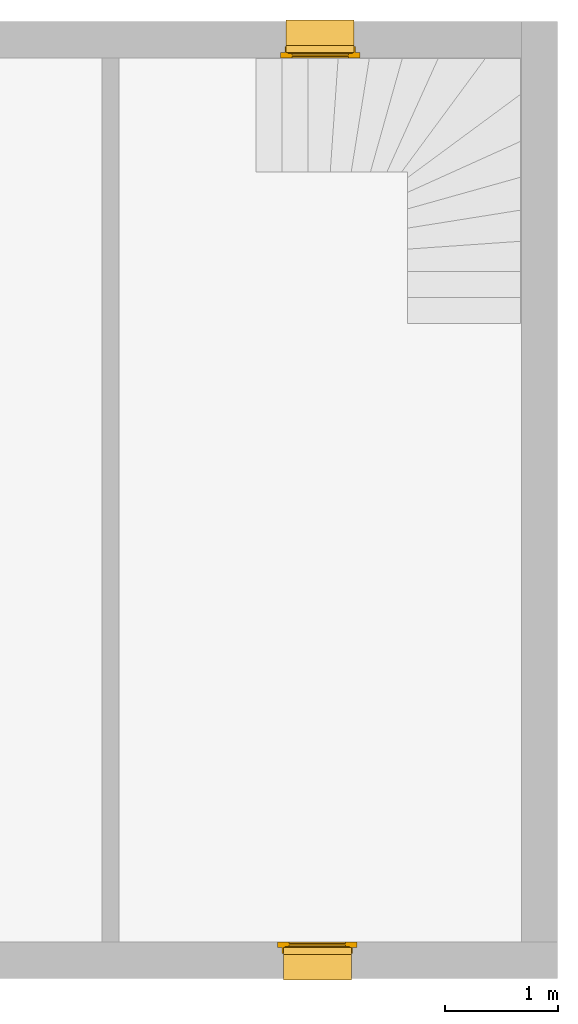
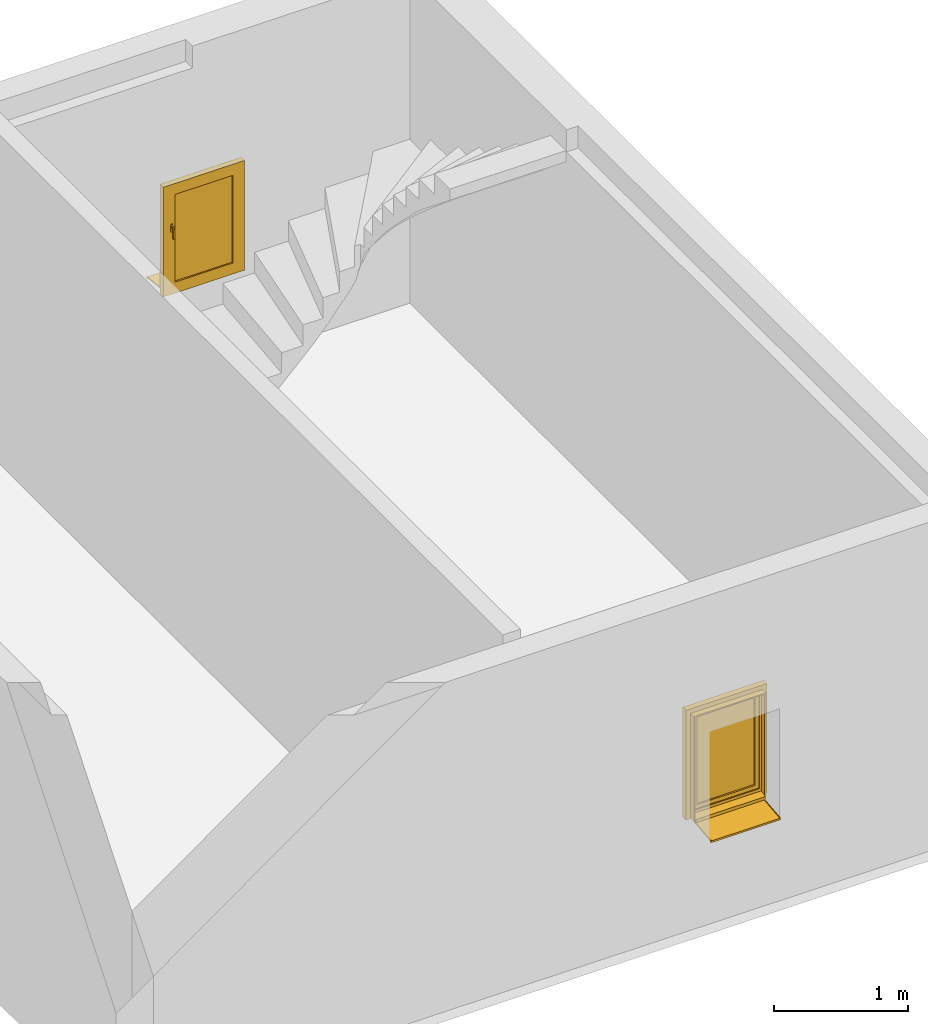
# One storey, part 3 of 4: 2 windows.
"""IFC2X3 building model written with IfcOpenShell, lengths in metres."""

import ifcopenshell
import ifcopenshell.guid

model = None  # the IFC model being written
_history = None  # IfcOwnerHistory: only IFC2X3 demands one
_inside = {}  # id of a spatial element -> (the spatial element, [elements in it])
_under = {}  # id of a project, library or spatial element -> (it, [spatial elements below it])
_declared = {}  # id of a project -> (the project, [libraries it declares])
_typed = {}  # id of a type object -> (the type object, [elements of that type])
_made_of = {}  # id of a material, layer set ... -> (it, [elements and type objects made of it])


def new_model(schema):
    """Start an empty IFC model of exactly this schema.

    Asked for "IFC4X3", IfcOpenShell would pick the latest addendum, in which some entities
    have other attributes; the version numbers below select the first issue.
    IFC2X3 requires an IfcOwnerHistory on every rooted entity: one is made here for all.
    """
    global model, _history
    if schema == "IFC4X3":
        model = ifcopenshell.file(schema_version=(4, 3, 0, 0))
    else:
        model = ifcopenshell.file(schema=schema)
    _inside.clear()
    _under.clear()
    _declared.clear()
    _typed.clear()
    _made_of.clear()
    _history = None
    if model.schema == "IFC2X3":
        org = make("IfcOrganization", Name="unknown")
        user = make(
            "IfcPersonAndOrganization",
            ThePerson=make("IfcPerson", FamilyName="unknown"),
            TheOrganization=org,
        )
        app = make(
            "IfcApplication",
            ApplicationDeveloper=org,
            Version="unknown",
            ApplicationFullName="unknown",
            ApplicationIdentifier="unknown",
        )
        _history = make(
            "IfcOwnerHistory",
            OwningUser=user,
            OwningApplication=app,
            ChangeAction="ADDED",
            CreationDate=0,
        )
    return model


def make(cls, **values):
    """One entity of the class cls with the attributes given. An attribute that is None is left unset."""
    return model.create_entity(
        cls, **{name: value for name, value in values.items() if value is not None}
    )


def entity(cls, *values):
    """Any entity or typed value of the class cls, its attributes in the order of the schema. None: left unset."""
    e = model.create_entity(cls)
    for i, value in enumerate(values):
        if value is not None:
            e[i] = value
    return e


def rooted(cls, **values):
    """An entity with a GlobalId (a new one), such as an element, a storey or a relation."""
    return make(cls, GlobalId=ifcopenshell.guid.new(), OwnerHistory=_history, **values)


def si_unit(unit_type, name, prefix=None):
    """IfcSIUnit, for example si_unit("LENGTHUNIT", "METRE", prefix="MILLI")."""
    return make("IfcSIUnit", UnitType=unit_type, Prefix=prefix, Name=name)


def converted_unit(unit_type, name, factor, base, dimensions=None, offset=None):
    """IfcConversionBasedUnit, such as the inch: factor (a typed value) times the base unit."""
    return make(
        "IfcConversionBasedUnit"
        if offset is None
        else "IfcConversionBasedUnitWithOffset",
        ConversionOffset=offset,
        Dimensions=None
        if dimensions is None
        else entity("IfcDimensionalExponents", *dimensions),
        UnitType=unit_type,
        Name=name,
        ConversionFactor=make(
            "IfcMeasureWithUnit", ValueComponent=factor, UnitComponent=base
        ),
    )


def derived_unit(unit_type, elements):
    """IfcDerivedUnit: a product of units, each with its exponent."""
    return make(
        "IfcDerivedUnit",
        Elements=[
            make("IfcDerivedUnitElement", Unit=unit, Exponent=power)
            for unit, power in elements
        ],
        UnitType=unit_type,
    )


def assignment(units):
    """IfcUnitAssignment: the units of a project."""
    return None if units is None else make("IfcUnitAssignment", Units=units)


def point(xyz):
    """IfcCartesianPoint."""
    return None if xyz is None else make("IfcCartesianPoint", Coordinates=xyz)


def direction(xyz):
    """IfcDirection."""
    return None if xyz is None else make("IfcDirection", DirectionRatios=xyz)


def frame(location, z_axis=None, x_axis=None):
    """IfcAxis2Placement3D, a coordinate frame: its origin and axes. An axis left out is left unset."""
    return make(
        "IfcAxis2Placement3D",
        Location=point(location),
        Axis=direction(z_axis),
        RefDirection=direction(x_axis),
    )


def origin():
    """The frame at (0, 0, 0) with its axes left unset."""
    return frame((0.0, 0.0, 0.0))


def place(relative_to, where):
    """IfcLocalPlacement: puts the frame where relative to a parent placement (None: the world)."""
    return make(
        "IfcLocalPlacement", PlacementRelTo=relative_to, RelativePlacement=where
    )


def context(
    kind, dimensions, precision=None, world=None, true_north=None, identifier=None
):
    """IfcGeometricRepresentationContext, for example the 3D "Model" context."""
    return make(
        "IfcGeometricRepresentationContext",
        ContextIdentifier=identifier,
        ContextType=kind,
        CoordinateSpaceDimension=dimensions,
        Precision=precision,
        WorldCoordinateSystem=world,
        TrueNorth=true_north,
    )


def subcontext(parent, identifier, kind, view, scale=None):
    """IfcGeometricRepresentationSubContext, for example "Body" below "Model"."""
    return make(
        "IfcGeometricRepresentationSubContext",
        ContextIdentifier=identifier,
        ContextType=kind,
        ParentContext=parent,
        TargetScale=scale,
        TargetView=view,
    )


def project(units=None, contexts=None):
    """IfcProject with its units and contexts."""
    return rooted(
        "IfcProject",
        Name="project",
        RepresentationContexts=contexts,
        UnitsInContext=assignment(units),
    )


def spatial(cls, under=None, at=None, **own):
    """A site, building, storey or space (cls), placed at a placement, below another one or the project."""
    s = rooted(cls, ObjectPlacement=at, **own)
    if under is not None:
        _under.setdefault(under.id(), (under, []))[1].append(s)
    return s


def faces_of(points, faces, orient=None, outer=None):
    """IfcFace entities. A face is a list of loops; a loop is a list of indices into points, from 0.

    orient and outer hold one flag for each loop. By default every Orientation is true, the
    first loop of a face is its IfcFaceOuterBound and the others are IfcFaceBound.
    """
    made = []
    for i, loops in enumerate(faces):
        bounds = []
        for j, loop in enumerate(loops):
            is_outer = j == 0 if outer is None else outer[i][j]
            bounds.append(
                make(
                    "IfcFaceOuterBound" if is_outer else "IfcFaceBound",
                    Bound=make("IfcPolyLoop", Polygon=[points[k] for k in loop]),
                    Orientation=True if orient is None else orient[i][j],
                )
            )
        made.append(make("IfcFace", Bounds=bounds))
    return made


def faceted_brep(points, faces, orient=None, outer=None, voids=None):
    """IfcFacetedBrep: a solid bounded by flat faces; with voids (closed shells), ...WithVoids."""
    shared = [point(p) for p in points]
    hull = make("IfcClosedShell", CfsFaces=faces_of(shared, faces, orient, outer))
    if voids is None:
        return make("IfcFacetedBrep", Outer=hull)
    return make(
        "IfcFacetedBrepWithVoids",
        Outer=hull,
        Voids=[
            make(cls, CfsFaces=faces_of(shared, fs, o, b)) for cls, fs, o, b in voids
        ],
    )


def shape(context_of_items, identifier, shape_type, items):
    """IfcShapeRepresentation: the items that make up one representation, for example the "Body"."""
    return make(
        "IfcShapeRepresentation",
        ContextOfItems=context_of_items,
        RepresentationIdentifier=identifier,
        RepresentationType=shape_type,
        Items=items,
    )


def source(mapping_origin, context_of_items, identifier, shape_type, items):
    """IfcRepresentationMap: a shape defined once, which mapped items show again and again."""
    return make(
        "IfcRepresentationMap",
        MappingOrigin=mapping_origin,
        MappedRepresentation=shape(context_of_items, identifier, shape_type, items),
    )


def transform(
    local_origin,
    x_axis=None,
    y_axis=None,
    z_axis=None,
    scale=None,
    scale2=None,
    scale3=None,
    uniform=True,
):
    """IfcCartesianTransformationOperator3D, or its non-uniform kind. x_axis, y_axis, z_axis: its Axis1, 2, 3."""
    if uniform:
        return make(
            "IfcCartesianTransformationOperator3D",
            Axis1=direction(x_axis),
            Axis2=direction(y_axis),
            LocalOrigin=point(local_origin),
            Scale=scale,
            Axis3=direction(z_axis),
        )
    return make(
        "IfcCartesianTransformationOperator3DnonUniform",
        Axis1=direction(x_axis),
        Axis2=direction(y_axis),
        LocalOrigin=point(local_origin),
        Scale=scale,
        Axis3=direction(z_axis),
        Scale2=scale2,
        Scale3=scale3,
    )


def mapped(mapping_source, mapping_target):
    """IfcMappedItem: shows the shape of a source again, moved by a transform."""
    return make(
        "IfcMappedItem", MappingSource=mapping_source, MappingTarget=mapping_target
    )


def material(Name=None, Category=None):
    """IfcMaterial."""
    return make("IfcMaterial", Name=Name, Category=Category)


def material_list(materials):
    """IfcMaterialList."""
    return make("IfcMaterialList", Materials=materials)


def made_of(thing, what):
    """Note that an element or type object is made of a material, layer set ...; save() writes the relation."""
    if what is not None:
        _made_of.setdefault(what.id(), (what, []))[1].append(thing)
    return thing


def type_object(cls, material=None, **own):
    """A type object (cls), such as IfcWallType, which elements share."""
    return made_of(rooted(cls, **own), material)


def type_shapes(of_type, sources):
    """Give a type object the sources (RepresentationMaps) that its elements show as mapped items."""
    of_type.RepresentationMaps = sources


def element(
    cls,
    number,
    at=None,
    inside=None,
    cuts=None,
    type_object=None,
    material=None,
    context=None,
    identifier="Body",
    shape_type=None,
    held_by="IfcProductDefinitionShape",
    body=None,
    shapes=None,
    **own,
):
    """One element of the class cls, such as IfcWall. Its Tag is "e" and its number.

    at: its placement. inside: the storey or other place that contains it. cuts: it is an
    opening in that element (IfcRelVoidsElement). A single representation is given by context,
    identifier, shape_type and body (its items); several are given by shapes. held_by: the class
    of the entity that holds the representations. save() writes the other relations.
    """
    e = rooted(cls, Tag="e%d" % number, ObjectPlacement=at, **own)
    if body is not None:
        shapes = [shape(context, identifier, shape_type, body)]
    if shapes is not None:
        e.Representation = make(held_by, Representations=shapes)
    if inside is not None:
        _inside.setdefault(inside.id(), (inside, []))[1].append(e)
    if cuts is not None:
        rooted(
            "IfcRelVoidsElement", RelatingBuildingElement=cuts, RelatedOpeningElement=e
        )
    if type_object is not None:
        _typed.setdefault(type_object.id(), (type_object, []))[1].append(e)
    return made_of(e, material)


def aggregate(whole, parts):
    """IfcRelAggregates: a whole, such as a stair, and the parts it consists of."""
    return rooted("IfcRelAggregates", RelatingObject=whole, RelatedObjects=parts)


def save(model, path):
    """Write the relations noted so far, then the file.

    IfcRelAggregates (storeys below a building ...), IfcRelContainedInSpatialStructure (elements
    in a storey), IfcRelDefinesByType, IfcRelAssociatesMaterial and IfcRelDeclares: one each for
    every whole, place, type object, material and project.
    """
    for whole, parts in _under.values():
        aggregate(whole, parts)
    for where, things in _inside.values():
        rooted(
            "IfcRelContainedInSpatialStructure",
            RelatedElements=things,
            RelatingStructure=where,
        )
    for kind, things in _typed.values():
        rooted("IfcRelDefinesByType", RelatedObjects=things, RelatingType=kind)
    for what, things in _made_of.values():
        rooted("IfcRelAssociatesMaterial", RelatedObjects=things, RelatingMaterial=what)
    for by, libraries in _declared.values():
        rooted("IfcRelDeclares", RelatingContext=by, RelatedDefinitions=libraries)
    model.write(path)


model = new_model("IFC2X3")

# Units and contexts
model_context = context("Model", 3, precision=1e-05, world=origin(), true_north=direction((6.12303176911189e-17, 1.0)))
context_of_model = context(None, 3, precision=1e-05, world=origin(), true_north=direction((6.12303176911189e-17, 1.0)))
body_context = subcontext(model_context, "Body", "Model", "MODEL_VIEW")
ifc_project = project(units=[si_unit("LENGTHUNIT", "METRE"), si_unit("AREAUNIT", "SQUARE_METRE"), si_unit("VOLUMEUNIT", "CUBIC_METRE"), converted_unit("PLANEANGLEUNIT", "DEGREE", entity("IfcRatioMeasure", 0.0174532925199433), si_unit("PLANEANGLEUNIT", "RADIAN"), dimensions=[0, 0, 0, 0, 0, 0, 0]), si_unit("MASSUNIT", "GRAM", prefix="KILO"), si_unit("TIMEUNIT", "SECOND"), si_unit("FREQUENCYUNIT", "HERTZ"), si_unit("THERMODYNAMICTEMPERATUREUNIT", "DEGREE_CELSIUS"), derived_unit("THERMALTRANSMITTANCEUNIT", [(si_unit("MASSUNIT", "GRAM", prefix="KILO"), 1), (si_unit("THERMODYNAMICTEMPERATUREUNIT", "KELVIN"), -1), (si_unit("TIMEUNIT", "SECOND"), -3)]), derived_unit("VOLUMETRICFLOWRATEUNIT", [(si_unit("LENGTHUNIT", "METRE"), 3), (si_unit("TIMEUNIT", "SECOND"), -1)]), si_unit("ELECTRICCURRENTUNIT", "AMPERE"), si_unit("ELECTRICVOLTAGEUNIT", "VOLT"), si_unit("POWERUNIT", "WATT"), si_unit("FORCEUNIT", "NEWTON", prefix="KILO"), si_unit("ILLUMINANCEUNIT", "LUX"), si_unit("LUMINOUSFLUXUNIT", "LUMEN"), si_unit("LUMINOUSINTENSITYUNIT", "CANDELA"), si_unit("PRESSUREUNIT", "PASCAL")], contexts=[model_context, context_of_model])

# Site, building, storey
site_placement = place(None, origin())
site = spatial("IfcSite", under=ifc_project, at=site_placement, Name="Default", CompositionType="ELEMENT")
building_placement = place(site_placement, origin())
building = spatial("IfcBuilding", under=site, at=building_placement, CompositionType="ELEMENT")
storey_placement = place(building_placement, origin())
storey = spatial("IfcBuildingStorey", under=building, at=storey_placement, Name="Niveau 0", CompositionType="ELEMENT", Elevation=-1.94916083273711e-14)

# Windows
ifc_material_1 = material(Name="Fenêtre - Poignée")
ifc_material_2 = material(Name="Fenêtre - Appui")
ifc_material_3 = material(Name="Fenêtre - Vitrage")
ifc_material_4 = material(Name="Fenêtre - Cadre")
ifc_material_list_1 = material_list([ifc_material_1, ifc_material_2, ifc_material_3, ifc_material_4])
ifc_material_list_2 = material_list([ifc_material_1, ifc_material_2, ifc_material_3, ifc_material_4])
window_style = type_object("IfcWindowStyle", Name="0.60 m x 0.95 m - Appui en aluminium", ConstructionType="NOTDEFINED", OperationType="SINGLE_PANEL", ParameterTakesPrecedence=False, Sizeable=False, material=ifc_material_list_2)
shared_shape = source(origin(), body_context, "Body", "Brep", [
    faceted_brep([(0.0806460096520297, -0.66600000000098, 0.697994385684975), (0.08203392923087, -0.66600000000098, 0.696606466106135), (0.08203392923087, -0.66600000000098, 0.68529275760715), (0.0806676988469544, -0.66600000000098, 0.683926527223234), (0.0693323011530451, -0.66600000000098, 0.683926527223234), (0.0679660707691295, -0.66600000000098, 0.68529275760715), (0.0679660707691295, -0.66600000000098, 0.696606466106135), (0.0693539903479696, -0.66600000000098, 0.697994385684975), (0.0806460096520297, -0.678913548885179, 0.697994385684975), (0.08203392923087, -0.67833865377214, 0.696606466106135), (0.08203392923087, -0.69164600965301, 0.683299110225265), (0.08203392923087, -0.691646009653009, 0.595960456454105), (0.08203392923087, -0.680332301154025, 0.595960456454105), (0.08203392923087, -0.680332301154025, 0.67861281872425), (0.08203392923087, -0.673652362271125, 0.68529275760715), (0.0806676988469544, -0.673086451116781, 0.683926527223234), (0.0693323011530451, -0.673086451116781, 0.683926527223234), (0.0679660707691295, -0.673652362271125, 0.68529275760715), (0.0679660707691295, -0.680332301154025, 0.67861281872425), (0.0679660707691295, -0.680332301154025, 0.595960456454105), (0.0679660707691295, -0.691646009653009, 0.595960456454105), (0.0679660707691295, -0.69164600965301, 0.683299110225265), (0.0679660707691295, -0.67833865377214, 0.696606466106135), (0.0693539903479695, -0.678913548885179, 0.697994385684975), (0.0806460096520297, -0.69303392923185, 0.683874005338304), (0.0806676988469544, -0.678966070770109, 0.678046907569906), (0.0693323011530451, -0.678966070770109, 0.678046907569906), (0.0693539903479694, -0.69303392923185, 0.683874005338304), (0.0806460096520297, -0.69303392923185, 0.595960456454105), (0.0693539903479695, -0.69303392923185, 0.595960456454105), (0.0693323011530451, -0.678966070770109, 0.595960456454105), (0.0806676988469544, -0.678966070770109, 0.595960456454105)], [[[0, 1, 2, 3, 4, 5, 6, 7]], [[1, 0, 8, 9]], [[2, 1, 9, 10, 11, 12, 13, 14]], [[3, 2, 14, 15]], [[4, 3, 15, 16]], [[5, 4, 16, 17]], [[6, 5, 17, 18, 19, 20, 21, 22]], [[7, 6, 22, 23]], [[0, 7, 23, 8]], [[9, 8, 24, 10]], [[15, 14, 13, 25]], [[16, 15, 25, 26]], [[17, 16, 26, 18]], [[23, 22, 21, 27]], [[8, 23, 27, 24]], [[28, 29, 20, 19, 30, 31, 12, 11]], [[10, 24, 28, 11]], [[25, 13, 12, 31]], [[26, 25, 31, 30]], [[18, 26, 30, 19]], [[27, 21, 20, 29]], [[24, 27, 29, 28]]]),
    faceted_brep([(0.0820000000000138, -0.666000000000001, 0.715960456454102), (0.0679999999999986, -0.666000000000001, 0.715960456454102), (0.0629999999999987, -0.666000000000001, 0.710960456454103), (0.0629999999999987, -0.666000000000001, 0.640960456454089), (0.0679999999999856, -0.666000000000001, 0.635960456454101), (0.0820000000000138, -0.666000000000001, 0.635960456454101), (0.0869999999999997, -0.666000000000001, 0.640960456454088), (0.0869999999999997, -0.666000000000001, 0.710960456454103), (0.0820000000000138, -0.660000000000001, 0.715960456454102), (0.0869999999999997, -0.660000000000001, 0.710960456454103), (0.0869999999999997, -0.660000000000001, 0.640960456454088), (0.0820000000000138, -0.660000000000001, 0.635960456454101), (0.0679999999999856, -0.660000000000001, 0.635960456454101), (0.0629999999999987, -0.660000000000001, 0.640960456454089), (0.0629999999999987, -0.660000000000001, 0.710960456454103), (0.0679999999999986, -0.660000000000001, 0.715960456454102)], [[[0, 1, 2, 3, 4, 5, 6, 7]], [[8, 9, 10, 11, 12, 13, 14, 15]], [[1, 0, 8, 15]], [[2, 1, 15, 14]], [[3, 2, 14, 13]], [[4, 3, 13, 12]], [[5, 4, 12, 11]], [[6, 5, 11, 10]], [[7, 6, 10, 9]], [[0, 7, 9, 8]]]),
    faceted_brep([(0.649999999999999, -0.324999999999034, 0.0394140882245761), (0.649999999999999, -0.574999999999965, 0.0656901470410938), (0.649999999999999, -0.574999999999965, 0.0759604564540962), (0.649999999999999, -0.579999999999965, 0.0759604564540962), (0.649999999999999, -0.579999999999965, 0.0609604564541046), (0.649999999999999, -0.329999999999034, 0.0346843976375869), (0.649999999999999, -0.329999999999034, 0.0243838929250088), (0.649999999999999, -0.324999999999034, 0.0238583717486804), (0.0499999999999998, -0.324999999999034, 0.0394140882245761), (0.0499999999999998, -0.324999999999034, 0.0238583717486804), (0.0499999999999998, -0.329999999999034, 0.0243838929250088), (0.0499999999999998, -0.329999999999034, 0.0346843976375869), (0.0499999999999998, -0.579999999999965, 0.0609604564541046), (0.0499999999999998, -0.579999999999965, 0.0759604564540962), (0.0499999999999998, -0.574999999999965, 0.0759604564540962), (0.0499999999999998, -0.574999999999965, 0.0656901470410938)], [[[0, 1, 2, 3, 4, 5, 6, 7]], [[8, 9, 10, 11, 12, 13, 14, 15]], [[1, 0, 8, 15]], [[2, 1, 15, 14]], [[3, 2, 14, 13]], [[4, 3, 13, 12]], [[5, 4, 12, 11]], [[6, 5, 11, 10]], [[7, 6, 10, 9]], [[0, 7, 9, 8]]]),
    faceted_brep([(0.05, -0.324999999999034, 0.0408400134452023), (0.05, -0.324999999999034, 0.0394140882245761), (0.0499999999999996, -0.574999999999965, 0.0656901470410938), (0.0499999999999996, -0.574999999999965, 0.0707176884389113), (0.05, -0.328581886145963, 0.0448181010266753), (0.05, -0.326027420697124, 0.0435165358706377), (0.0549999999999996, -0.574999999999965, 0.0707176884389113), (0.0549999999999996, -0.574999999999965, 0.0656901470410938), (0.055, -0.324999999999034, 0.0394140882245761), (0.055, -0.324999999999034, 0.0408400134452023), (0.055, -0.326027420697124, 0.0435165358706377), (0.055, -0.328581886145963, 0.0448181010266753)], [[[0, 1, 2, 3, 4, 5]], [[6, 7, 8, 9, 10, 11]], [[2, 1, 8, 7]], [[3, 2, 7, 6]], [[4, 3, 6, 11]], [[4, 11, 10, 5]], [[10, 9, 0, 5]], [[1, 0, 9, 8]]]),
    faceted_brep([(0.645, -0.324999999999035, 0.0408400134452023), (0.645, -0.324999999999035, 0.0394140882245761), (0.644999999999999, -0.574999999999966, 0.0656901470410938), (0.644999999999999, -0.574999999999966, 0.0707176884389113), (0.645, -0.328581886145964, 0.0448181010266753), (0.645, -0.326027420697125, 0.0435165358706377), (0.649999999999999, -0.574999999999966, 0.0707176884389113), (0.649999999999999, -0.574999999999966, 0.0656901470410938), (0.65, -0.324999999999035, 0.0394140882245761), (0.65, -0.324999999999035, 0.0408400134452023), (0.65, -0.326027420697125, 0.0435165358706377), (0.65, -0.328581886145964, 0.0448181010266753)], [[[0, 1, 2, 3, 4, 5]], [[6, 7, 8, 9, 10, 11]], [[2, 1, 8, 7]], [[3, 2, 7, 6]], [[4, 3, 6, 11]], [[4, 11, 10, 5]], [[10, 9, 0, 5]], [[1, 0, 9, 8]]]),
    faceted_brep([(0.0999999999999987, -0.634000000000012, 0.175960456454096), (0.0999999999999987, -0.634000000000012, 0.975960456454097), (0.6, -0.634000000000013, 0.975960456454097), (0.6, -0.634000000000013, 0.175960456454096), (0.0999999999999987, -0.646000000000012, 0.175960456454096), (0.0999999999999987, -0.646000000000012, 0.975960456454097), (0.6, -0.646000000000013, 0.975960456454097), (0.6, -0.646000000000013, 0.175960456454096)], [[[0, 1, 2, 3]], [[1, 0, 4, 5]], [[3, 2, 6, 7]], [[0, 3, 7, 4]], [[4, 7, 6, 5]], [[2, 1, 5, 6]]]),
    faceted_brep([(0.099999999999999, -0.620000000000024, 0.975960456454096), (0.0999999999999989, -0.660000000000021, 0.975960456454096), (0.0999999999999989, -0.660000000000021, 0.175960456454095), (0.0999999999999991, -0.620000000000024, 0.175960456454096), (0.6, -0.660000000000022, 0.175960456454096), (0.6, -0.620000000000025, 0.175960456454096), (0.6, -0.660000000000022, 0.975960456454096), (0.649999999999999, -0.660000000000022, 0.125960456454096), (0.649999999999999, -0.660000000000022, 1.0259604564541), (0.0499999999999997, -0.660000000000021, 1.0259604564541), (0.0499999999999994, -0.660000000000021, 0.125960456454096), (0.6, -0.620000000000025, 0.975960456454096), (0.0499999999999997, -0.620000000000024, 0.125960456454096), (0.0499999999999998, -0.620000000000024, 1.0259604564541), (0.649999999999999, -0.620000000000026, 1.0259604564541), (0.649999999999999, -0.620000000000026, 0.125960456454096)], [[[0, 1, 2, 3]], [[3, 2, 4, 5]], [[2, 1, 6, 4], [7, 8, 9, 10]], [[5, 4, 6, 11]], [[5, 11, 0, 3], [12, 13, 14, 15]], [[9, 13, 12, 10]], [[10, 12, 15, 7]], [[7, 15, 14, 8]], [[11, 6, 1, 0]], [[8, 14, 13, 9]]], outer=[[True], [True], [False, True], [True], [False, True], [True], [True], [True], [True], [True]]),
    faceted_brep([(0.0, -0.660000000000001, 0.0759604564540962), (0.0, -0.610000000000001, 0.0759604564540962), (0.0499999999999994, -0.610000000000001, 0.0759604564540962), (0.0499999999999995, -0.560000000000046, 0.0759604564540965), (0.649999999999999, -0.560000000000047, 0.0759604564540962), (0.649999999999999, -0.610000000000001, 0.0759604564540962), (0.699999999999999, -0.610000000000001, 0.0759604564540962), (0.699999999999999, -0.660000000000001, 0.0759604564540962), (0.0, -0.660000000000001, 1.0759604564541), (0.0, -0.610000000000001, 1.0759604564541), (0.699999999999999, -0.610000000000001, 1.0759604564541), (0.649999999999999, -0.610000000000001, 0.1153365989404), (0.0499999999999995, -0.610000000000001, 0.115336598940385), (0.0649999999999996, -0.610000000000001, 1.0109604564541), (0.0649999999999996, -0.610000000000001, 0.140960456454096), (0.634999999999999, -0.610000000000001, 0.140960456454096), (0.634999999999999, -0.610000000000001, 1.0109604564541), (0.0499999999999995, -0.550000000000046, 0.0992596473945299), (0.0499999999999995, -0.550000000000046, 0.0709604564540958), (0.0499999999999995, -0.560000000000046, 0.0709604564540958), (0.649999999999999, -0.560000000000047, 0.0709604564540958), (0.649999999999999, -0.550000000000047, 0.0709604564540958), (0.649999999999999, -0.550000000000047, 0.0992596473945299), (0.699999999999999, -0.660000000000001, 1.0759604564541), (0.649999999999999, -0.660000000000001, 1.0259604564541), (0.649999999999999, -0.660000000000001, 0.125960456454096), (0.0499999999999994, -0.66, 0.125960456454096), (0.0499999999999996, -0.660000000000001, 1.0259604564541), (0.0649999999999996, -0.620000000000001, 1.0109604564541), (0.0649999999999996, -0.620000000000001, 0.140960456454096), (0.634999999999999, -0.620000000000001, 0.140960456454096), (0.634999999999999, -0.620000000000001, 1.0109604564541), (0.649999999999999, -0.620000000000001, 1.0259604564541), (0.0499999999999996, -0.620000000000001, 1.0259604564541), (0.0499999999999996, -0.620000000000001, 0.125960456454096), (0.649999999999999, -0.620000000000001, 0.125960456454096)], [[[0, 1, 2, 3, 4, 5, 6, 7]], [[1, 0, 8, 9]], [[1, 9, 10, 6, 5, 11, 12, 2], [13, 14, 15, 16]], [[12, 17, 18, 19, 3, 2]], [[3, 19, 20, 4]], [[4, 20, 21, 22, 11, 5]], [[6, 10, 23, 7]], [[0, 7, 23, 8], [24, 25, 26, 27]], [[13, 28, 29, 14]], [[29, 30, 15, 14]], [[31, 16, 15, 30]], [[17, 12, 11, 22]], [[32, 33, 34, 35], [28, 31, 30, 29]], [[34, 33, 27, 26]], [[26, 25, 35, 34]], [[24, 32, 35, 25]], [[18, 17, 22, 21]], [[19, 18, 21, 20]], [[13, 16, 31, 28]], [[33, 32, 24, 27]], [[10, 9, 8, 23]]]),
    faceted_brep([(0.0499999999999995, -0.559999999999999, 0.0759604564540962), (0.0499999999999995, -0.610000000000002, 0.0759604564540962), (0.0399999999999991, -0.610000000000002, 0.0759604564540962), (0.0399999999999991, -0.559999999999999, 0.0759604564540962), (0.0499999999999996, -0.559999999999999, 1.0259604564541), (0.0499999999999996, -0.610000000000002, 1.0259604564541), (0.649999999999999, -0.610000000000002, 1.0259604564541), (0.649999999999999, -0.610000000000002, 0.0759604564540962), (0.66, -0.610000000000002, 0.0759604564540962), (0.66, -0.610000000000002, 1.0359604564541), (0.0399999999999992, -0.610000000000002, 1.0359604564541), (0.0399999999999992, -0.559999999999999, 1.0359604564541), (0.66, -0.559999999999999, 1.0359604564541), (0.66, -0.559999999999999, 0.0759604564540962), (0.649999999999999, -0.559999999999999, 0.0759604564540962), (0.649999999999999, -0.559999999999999, 1.0259604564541)], [[[0, 1, 2, 3]], [[1, 0, 4, 5]], [[2, 1, 5, 6, 7, 8, 9, 10]], [[3, 2, 10, 11]], [[0, 3, 11, 12, 13, 14, 15, 4]], [[6, 15, 14, 7]], [[14, 13, 8, 7]], [[12, 9, 8, 13]], [[5, 4, 15, 6]], [[11, 10, 9, 12]]]),
])
type_shapes(window_style, [shared_shape])
window_1_placement = place(storey_placement, frame((-3.6924259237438, -3.56461312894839, 0.724039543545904), z_axis=(0.0, 0.0, 1.0), x_axis=(-1.0, 0.0, 0.0)))
element("IfcWindow", 1, at=window_1_placement, inside=storey, type_object=window_style, material=ifc_material_list_1, Name="1 Vantail - Droit:0.60 m x 0.95 m - Appui en aluminium", ObjectType="0.60 m x 0.95 m - Appui en aluminium", OverallHeight=1.08, OverallWidth=0.699999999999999, context=body_context, shape_type="MappedRepresentation", body=[
    mapped(shared_shape, transform((0.0, 0.0, 0.0), scale=1.0)),
])
ifc_material_list_3 = material_list([ifc_material_1, ifc_material_2, ifc_material_3, ifc_material_4])
window_2_placement = place(storey_placement, frame((-4.3674259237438, 5.55538687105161, 0.724039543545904)))
element("IfcWindow", 2, at=window_2_placement, inside=storey, type_object=window_style, material=ifc_material_list_3, Name="1 Vantail - Droit:0.60 m x 0.95 m - Appui en aluminium", ObjectType="0.60 m x 0.95 m - Appui en aluminium", OverallHeight=1.08, OverallWidth=0.699999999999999, context=body_context, shape_type="MappedRepresentation", body=[
    mapped(shared_shape, transform((0.0, 0.0, 0.0), scale=1.0)),
])

save(model, "model.ifc")
